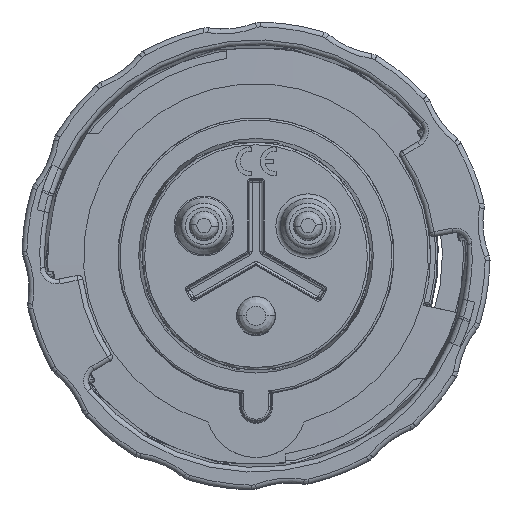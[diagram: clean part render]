
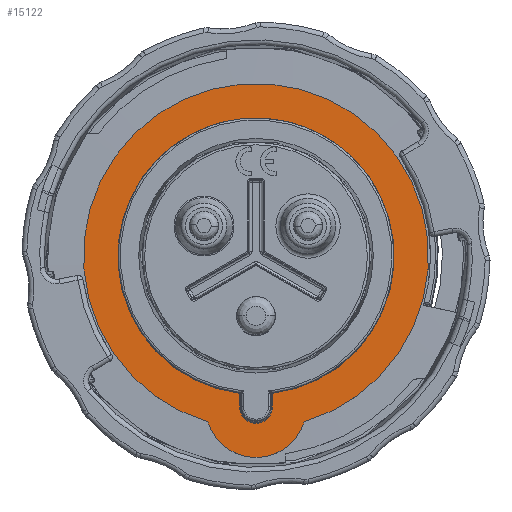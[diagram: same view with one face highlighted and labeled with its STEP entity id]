
A CAD part, top view. The second image highlights one B-rep face of the part: STEP entity #15122.
In plain terms, the highlighted planar face has unit normal (0, 0, 1).
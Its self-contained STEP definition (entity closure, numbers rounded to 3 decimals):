
#9658=FACE_BOUND('',#22987,.T.);
#9659=FACE_BOUND('',#22988,.T.);
#11732=CIRCLE('',#62634,35.9);
#11733=CIRCLE('',#62635,10.5);
#11734=CIRCLE('',#62636,28.75);
#11735=CIRCLE('',#62637,3.4);
#15122=ADVANCED_FACE('',(#9658,#9659),#16133,.F.);
#16133=PLANE('',#62638);
#22987=EDGE_LOOP('',(#39731,#39732));
#22988=EDGE_LOOP('',(#39733,#39734,#39735,#39736));
#39731=ORIENTED_EDGE('',*,*,#53359,.F.);
#39732=ORIENTED_EDGE('',*,*,#53360,.F.);
#39733=ORIENTED_EDGE('',*,*,#53361,.T.);
#39734=ORIENTED_EDGE('',*,*,#53362,.T.);
#39735=ORIENTED_EDGE('',*,*,#53363,.T.);
#39736=ORIENTED_EDGE('',*,*,#53364,.T.);
#44980=VERTEX_POINT('',#188922);
#44981=VERTEX_POINT('',#188923);
#44982=VERTEX_POINT('',#188926);
#44983=VERTEX_POINT('',#188927);
#44984=VERTEX_POINT('',#188929);
#44985=VERTEX_POINT('',#188931);
#53359=EDGE_CURVE('',#44980,#44981,#11732,.T.);
#53360=EDGE_CURVE('',#44981,#44980,#11733,.T.);
#53361=EDGE_CURVE('',#44982,#44983,#11734,.T.);
#53362=EDGE_CURVE('',#44983,#44984,#55898,.T.);
#53363=EDGE_CURVE('',#44984,#44985,#11735,.T.);
#53364=EDGE_CURVE('',#44985,#44982,#55899,.T.);
#55898=LINE('',#188928,#58485);
#55899=LINE('',#188932,#58486);
#58485=VECTOR('',#73520,1.);
#58486=VECTOR('',#73523,1.);
#62634=AXIS2_PLACEMENT_3D('',#188921,#73514,#73515);
#62635=AXIS2_PLACEMENT_3D('',#188924,#73516,#73517);
#62636=AXIS2_PLACEMENT_3D('',#188925,#73518,#73519);
#62637=AXIS2_PLACEMENT_3D('',#188930,#73521,#73522);
#62638=AXIS2_PLACEMENT_3D('',#188933,#73524,#73525);
#73514=DIRECTION('',(0.,0.,-1.));
#73515=DIRECTION('',(1.,0.,0.));
#73516=DIRECTION('',(0.,0.,-1.));
#73517=DIRECTION('',(1.,0.,0.));
#73518=DIRECTION('',(0.,0.,-1.));
#73519=DIRECTION('',(1.,0.,0.));
#73520=DIRECTION('',(0.,-1.,0.));
#73521=DIRECTION('',(0.,0.,-1.));
#73522=DIRECTION('',(1.,0.,0.));
#73523=DIRECTION('',(0.,1.,0.));
#73524=DIRECTION('',(0.,0.,-1.));
#73525=DIRECTION('',(-1.,0.,0.));
#188921=CARTESIAN_POINT('',(0.,0.,-2.5));
#188922=CARTESIAN_POINT('',(-10.042,-34.467,-2.5));
#188923=CARTESIAN_POINT('',(10.042,-34.467,-2.5));
#188924=CARTESIAN_POINT('',(0.,-31.4,-2.5));
#188925=CARTESIAN_POINT('',(0.,0.,-2.5));
#188926=CARTESIAN_POINT('',(-3.4,-28.548,-2.5));
#188927=CARTESIAN_POINT('',(3.4,-28.548,-2.5));
#188928=CARTESIAN_POINT('',(3.4,-28.548,-2.5));
#188929=CARTESIAN_POINT('',(3.4,-31.4,-2.5));
#188930=CARTESIAN_POINT('',(0.,-31.4,-2.5));
#188931=CARTESIAN_POINT('',(-3.4,-31.4,-2.5));
#188932=CARTESIAN_POINT('',(-3.4,-31.4,-2.5));
#188933=CARTESIAN_POINT('',(0.,-15.7,-2.5));
